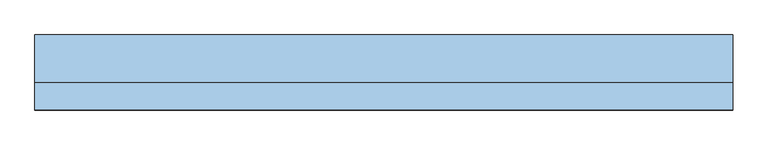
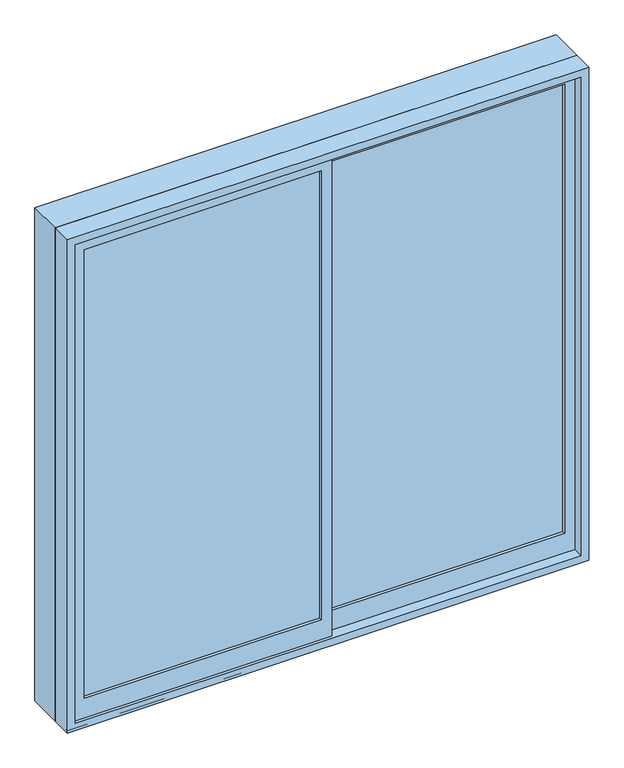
"""IFC4 building model written with IfcOpenShell, lengths in millimetres: window geometry, 窓-引違掃出2枚-内付 : AW-3' w2000 h2000."""

from ifc_helpers import new_model, si_unit, frame, origin, origin_with_axes, place, context, project, spatial, polyline, outline, extrude, source, transform, mapped, element, save


def window_ec430ee0(model_context):
    return source(origin(), model_context, "Body", "SweptSolid", [
        extrude(outline(polyline([(0.0, 1000.0), (2000.0, 1000.0), (2000.0, -1000.0), (0.0, -1000.0), (0.0, 1000.0)]), holes=[polyline([(20.0, 980.0), (20.0, -980.0), (1980.0, -980.0), (1980.0, 980.0), (20.0, 980.0)])]), frame((0.0, -20.0, 0.0), z_axis=(0.0, 1.0, 0.0), x_axis=(0.0, 0.0, 1.0)), (0.0, 0.0, 1.0), 135.0),
        extrude(outline(polyline([(0.0, -1000.0), (0.0, 1000.0), (2000.0, 1000.0), (2000.0, -1000.0), (0.0, -1000.0)]), holes=[polyline([(30.0, -970.0), (1970.0, -970.0), (1970.0, 970.0), (30.0, 970.0), (30.0, -970.0)])]), frame((0.0, -100.0, 0.0), z_axis=(0.0, 1.0, 0.0), x_axis=(0.0, 0.0, 1.0)), (0.0, 0.0, 1.0), 80.0),
        extrude(outline(polyline([(930.0, -42.5), (930.0, -47.5), (20.0, -47.5), (20.0, -42.5), (930.0, -42.5)])), frame((0.0, 0.0, 90.0), z_axis=(0.0, 0.0, 1.0), x_axis=(1.0, 0.0, 0.0)), (0.0, 0.0, 1.0), 1840.0),
        extrude(outline(polyline([(1970.0, -20.0), (30.0, -20.0), (30.0, 970.0), (1970.0, 970.0), (1970.0, -20.0)]), holes=[polyline([(1930.0, 20.0), (1930.0, 930.0), (110.0, 930.0), (110.0, 20.0), (1930.0, 20.0)])]), frame((0.0, -60.0, 0.0), z_axis=(0.0, 1.0, 0.0), x_axis=(0.0, 0.0, 1.0)), (0.0, 0.0, 1.0), 30.0),
        extrude(outline(polyline([(-20.0, -72.5), (-20.0, -77.5), (-930.0, -77.5), (-930.0, -72.5), (-20.0, -72.5)])), frame((0.0, 0.0, 90.0), z_axis=(0.0, 0.0, 1.0), x_axis=(1.0, 0.0, 0.0)), (0.0, 0.0, 1.0), 1840.0),
        extrude(outline(polyline([(30.0, -970.0), (30.0, 20.0), (1970.0, 20.0), (1970.0, -970.0), (30.0, -970.0)]), holes=[polyline([(110.0, -930.0), (1930.0, -930.0), (1930.0, -20.0), (110.0, -20.0), (110.0, -930.0)])]), frame((0.0, -90.0, 0.0), z_axis=(0.0, 1.0, 0.0), x_axis=(0.0, 0.0, 1.0)), (0.0, 0.0, 1.0), 30.0),
        extrude(outline(polyline([(1000.0, -85.0), (1000.0, -100.0), (-1000.0, -100.0), (-1000.0, -85.0), (1000.0, -85.0)])), origin_with_axes(), (0.0, 0.0, 1.0), 10.0),
    ])


if __name__ == "__main__":
    model = new_model("IFC4")
    model_context = context("Model", 3, world=origin())
    ifc_project = project(units=[si_unit("LENGTHUNIT", "METRE", prefix="MILLI")], contexts=[model_context])
    site = spatial("IfcSite", under=ifc_project)
    building = spatial("IfcBuilding", under=site)
    placement = place(None, origin())
    window_shape = window_ec430ee0(model_context)
    element("IfcWindow", 1, ObjectType="窓-引違掃出2枚-内付 : AW-3' w2000 h2000", at=placement, inside=building, context=model_context, shape_type="MappedRepresentation", body=[
        mapped(window_shape, transform((0.0, 0.0, 0.0), x_axis=(1.0, 0.0, 0.0), y_axis=(0.0, 1.0, 0.0), z_axis=(0.0, 0.0, 1.0))),
    ])
    save(model, "model.ifc")
